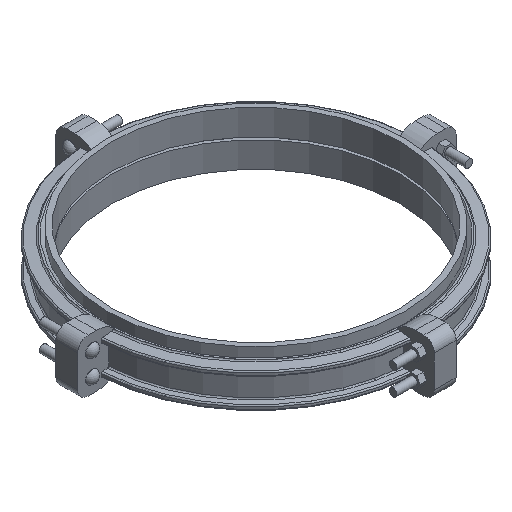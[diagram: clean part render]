
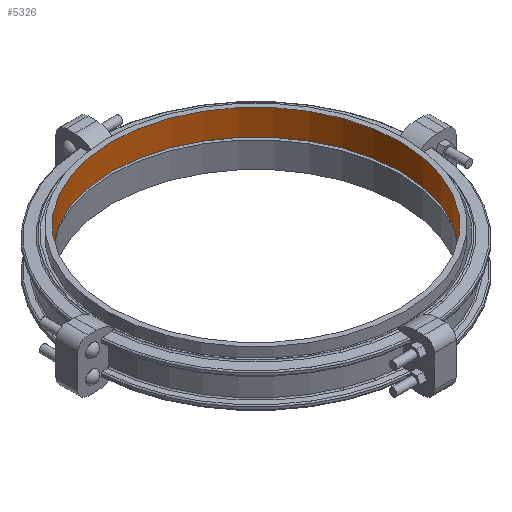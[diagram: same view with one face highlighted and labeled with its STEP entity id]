
A CAD part, isometric view. The second image highlights one B-rep face of the part: STEP entity #5326.
In plain terms, the highlighted cylindrical face has radius 711.2 mm (diameter 1422.4 mm), a full revolution.
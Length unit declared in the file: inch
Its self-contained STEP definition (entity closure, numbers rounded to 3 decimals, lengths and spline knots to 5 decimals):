
#270=CYLINDRICAL_SURFACE('',#5937,28.);
#588=FACE_OUTER_BOUND('',#906,.T.);
#906=EDGE_LOOP('',(#4630,#4631,#4632,#4633,#4634,#4635));
#1291=LINE('',#10065,#1674);
#1674=VECTOR('',#7388,28.);
#1927=CIRCLE('',#5935,28.);
#1928=CIRCLE('',#5936,28.);
#1929=CIRCLE('',#5938,28.);
#1930=CIRCLE('',#5939,28.);
#2431=VERTEX_POINT('',#10059);
#2432=VERTEX_POINT('',#10060);
#2433=VERTEX_POINT('',#10064);
#2434=VERTEX_POINT('',#10066);
#3165=EDGE_CURVE('',#2431,#2432,#1927,.T.);
#3166=EDGE_CURVE('',#2432,#2431,#1928,.T.);
#3167=EDGE_CURVE('',#2432,#2433,#1291,.T.);
#3168=EDGE_CURVE('',#2434,#2433,#1929,.T.);
#3169=EDGE_CURVE('',#2433,#2434,#1930,.T.);
#4630=ORIENTED_EDGE('',*,*,#3165,.T.);
#4631=ORIENTED_EDGE('',*,*,#3167,.T.);
#4632=ORIENTED_EDGE('',*,*,#3168,.F.);
#4633=ORIENTED_EDGE('',*,*,#3169,.F.);
#4634=ORIENTED_EDGE('',*,*,#3167,.F.);
#4635=ORIENTED_EDGE('',*,*,#3166,.T.);
#5326=ADVANCED_FACE('',(#588),#270,.F.);
#5935=AXIS2_PLACEMENT_3D('',#10061,#7382,#7383);
#5936=AXIS2_PLACEMENT_3D('',#10062,#7384,#7385);
#5937=AXIS2_PLACEMENT_3D('',#10063,#7386,#7387);
#5938=AXIS2_PLACEMENT_3D('',#10067,#7389,#7390);
#5939=AXIS2_PLACEMENT_3D('',#10068,#7391,#7392);
#7382=DIRECTION('center_axis',(0.,0.,-1.));
#7383=DIRECTION('ref_axis',(1.,0.,0.));
#7384=DIRECTION('center_axis',(0.,0.,-1.));
#7385=DIRECTION('ref_axis',(1.,0.,0.));
#7386=DIRECTION('center_axis',(0.,0.,-1.));
#7387=DIRECTION('ref_axis',(0.,1.,0.));
#7388=DIRECTION('',(0.,0.,1.));
#7389=DIRECTION('center_axis',(0.,0.,-1.));
#7390=DIRECTION('ref_axis',(1.,0.,0.));
#7391=DIRECTION('center_axis',(0.,0.,-1.));
#7392=DIRECTION('ref_axis',(1.,0.,0.));
#10059=CARTESIAN_POINT('',(0.,28.,0.));
#10060=CARTESIAN_POINT('',(0.,-28.,0.));
#10061=CARTESIAN_POINT('Origin',(0.,0.,0.));
#10062=CARTESIAN_POINT('Origin',(0.,0.,0.));
#10063=CARTESIAN_POINT('Origin',(0.,0.,2.5));
#10064=CARTESIAN_POINT('',(0.,-28.,5.));
#10065=CARTESIAN_POINT('',(0.,-28.,2.5));
#10066=CARTESIAN_POINT('',(0.,28.,5.));
#10067=CARTESIAN_POINT('Origin',(0.,0.,5.));
#10068=CARTESIAN_POINT('Origin',(0.,0.,5.));
